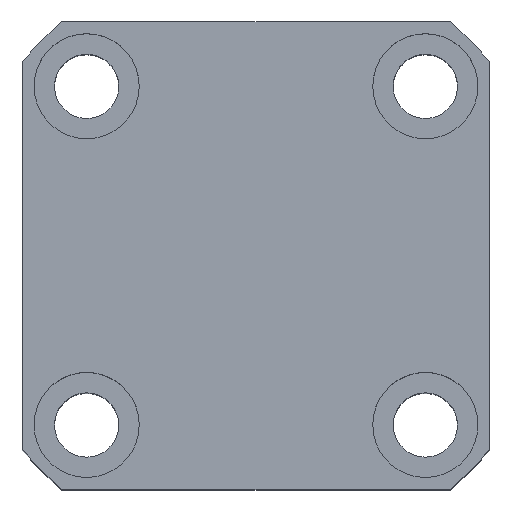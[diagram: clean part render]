
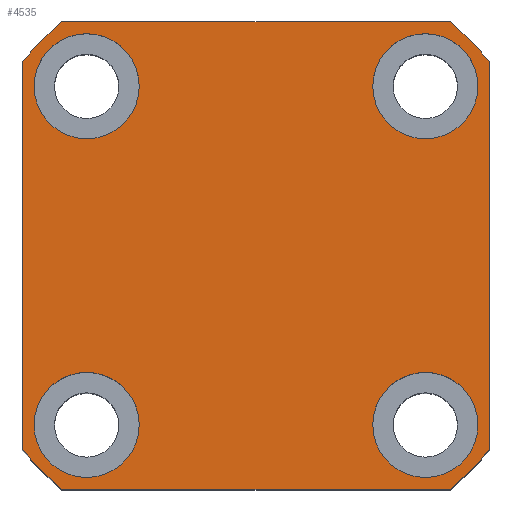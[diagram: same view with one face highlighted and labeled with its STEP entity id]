
A CAD part, top view. The second image highlights one B-rep face of the part: STEP entity #4535.
In plain terms, the highlighted planar face has unit normal (0, 0, 1).
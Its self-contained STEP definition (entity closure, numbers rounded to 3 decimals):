
#2261=PLANE('',#10291);
#2510=LINE('',#17386,#3194);
#2517=LINE('',#18040,#3201);
#2521=LINE('',#18052,#3205);
#2524=LINE('',#18064,#3208);
#3194=VECTOR('',#10734,1.);
#3201=VECTOR('',#10883,1.);
#3205=VECTOR('',#10895,1.);
#3208=VECTOR('',#10912,1.);
#4535=ADVANCED_FACE('',(#4993,#4994,#4995,#4996,#4997),#2261,.T.);
#4993=FACE_BOUND('',#5217,.T.);
#4994=FACE_BOUND('',#5218,.T.);
#4995=FACE_BOUND('',#5219,.T.);
#4996=FACE_BOUND('',#5220,.T.);
#4997=FACE_BOUND('',#5221,.T.);
#5217=EDGE_LOOP('',(#6170));
#5218=EDGE_LOOP('',(#6171));
#5219=EDGE_LOOP('',(#6172));
#5220=EDGE_LOOP('',(#6173));
#5221=EDGE_LOOP('',(#6174,#6175,#6176,#6177,#6178,#6179,#6180,#6181));
#5648=CIRCLE('',#10240,9.);
#5650=CIRCLE('',#10243,9.);
#5652=CIRCLE('',#10246,9.);
#5654=CIRCLE('',#10249,9.);
#5673=CIRCLE('',#10277,52.);
#5675=CIRCLE('',#10281,52.);
#5677=CIRCLE('',#10285,52.);
#5679=CIRCLE('',#10288,52.);
#6170=ORIENTED_EDGE('',*,*,#8977,.F.);
#6171=ORIENTED_EDGE('',*,*,#8979,.F.);
#6172=ORIENTED_EDGE('',*,*,#8981,.F.);
#6173=ORIENTED_EDGE('',*,*,#8983,.F.);
#6174=ORIENTED_EDGE('',*,*,#9003,.T.);
#6175=ORIENTED_EDGE('',*,*,#9007,.T.);
#6176=ORIENTED_EDGE('',*,*,#9010,.T.);
#6177=ORIENTED_EDGE('',*,*,#9013,.T.);
#6178=ORIENTED_EDGE('',*,*,#9015,.T.);
#6179=ORIENTED_EDGE('',*,*,#8915,.T.);
#6180=ORIENTED_EDGE('',*,*,#9018,.T.);
#6181=ORIENTED_EDGE('',*,*,#9020,.T.);
#8086=VERTEX_POINT('',#17385);
#8087=VERTEX_POINT('',#17387);
#8147=VERTEX_POINT('',#17968);
#8149=VERTEX_POINT('',#17973);
#8151=VERTEX_POINT('',#17978);
#8153=VERTEX_POINT('',#17983);
#8173=VERTEX_POINT('',#18031);
#8174=VERTEX_POINT('',#18033);
#8176=VERTEX_POINT('',#18039);
#8178=VERTEX_POINT('',#18045);
#8180=VERTEX_POINT('',#18051);
#8182=VERTEX_POINT('',#18060);
#8915=EDGE_CURVE('',#8087,#8086,#2510,.T.);
#8977=EDGE_CURVE('',#8147,#8147,#5648,.T.);
#8979=EDGE_CURVE('',#8149,#8149,#5650,.T.);
#8981=EDGE_CURVE('',#8151,#8151,#5652,.T.);
#8983=EDGE_CURVE('',#8153,#8153,#5654,.T.);
#9003=EDGE_CURVE('',#8174,#8173,#5673,.T.);
#9007=EDGE_CURVE('',#8173,#8176,#2517,.T.);
#9010=EDGE_CURVE('',#8176,#8178,#5675,.T.);
#9013=EDGE_CURVE('',#8178,#8180,#2521,.T.);
#9015=EDGE_CURVE('',#8180,#8087,#5677,.T.);
#9018=EDGE_CURVE('',#8086,#8182,#5679,.T.);
#9020=EDGE_CURVE('',#8182,#8174,#2524,.T.);
#10240=AXIS2_PLACEMENT_3D('',#17967,#10801,#10802);
#10243=AXIS2_PLACEMENT_3D('',#17972,#10807,#10808);
#10246=AXIS2_PLACEMENT_3D('',#17977,#10813,#10814);
#10249=AXIS2_PLACEMENT_3D('',#17982,#10819,#10820);
#10277=AXIS2_PLACEMENT_3D('',#18032,#10876,#10877);
#10281=AXIS2_PLACEMENT_3D('',#18046,#10889,#10890);
#10285=AXIS2_PLACEMENT_3D('',#18055,#10900,#10901);
#10288=AXIS2_PLACEMENT_3D('',#18061,#10907,#10908);
#10291=AXIS2_PLACEMENT_3D('',#18066,#10915,#10916);
#10734=DIRECTION('',(0.,1.,0.));
#10801=DIRECTION('',(0.,0.,1.));
#10802=DIRECTION('',(1.,0.,0.));
#10807=DIRECTION('',(0.,0.,1.));
#10808=DIRECTION('',(1.,0.,0.));
#10813=DIRECTION('',(0.,0.,1.));
#10814=DIRECTION('',(1.,0.,0.));
#10819=DIRECTION('',(0.,0.,1.));
#10820=DIRECTION('',(1.,0.,0.));
#10876=DIRECTION('',(0.,0.,1.));
#10877=DIRECTION('',(1.,0.,0.));
#10883=DIRECTION('',(0.,-1.,0.));
#10889=DIRECTION('',(0.,0.,1.));
#10890=DIRECTION('',(1.,0.,0.));
#10895=DIRECTION('',(1.,0.,0.));
#10900=DIRECTION('',(0.,0.,1.));
#10901=DIRECTION('',(1.,0.,0.));
#10907=DIRECTION('',(0.,0.,1.));
#10908=DIRECTION('',(1.,0.,0.));
#10912=DIRECTION('',(-1.,0.,0.));
#10915=DIRECTION('',(0.,0.,1.));
#10916=DIRECTION('',(-1.,0.,0.));
#17385=CARTESIAN_POINT('',(40.,33.226,42.5));
#17386=CARTESIAN_POINT('',(40.,33.226,42.5));
#17387=CARTESIAN_POINT('',(40.,-33.226,42.5));
#17967=CARTESIAN_POINT('',(29.,-29.,42.5));
#17968=CARTESIAN_POINT('',(38.,-29.,42.5));
#17972=CARTESIAN_POINT('',(-29.,-29.,42.5));
#17973=CARTESIAN_POINT('',(-20.,-29.,42.5));
#17977=CARTESIAN_POINT('',(-29.,29.,42.5));
#17978=CARTESIAN_POINT('',(-20.,29.,42.5));
#17982=CARTESIAN_POINT('',(29.,29.,42.5));
#17983=CARTESIAN_POINT('',(38.,29.,42.5));
#18031=CARTESIAN_POINT('',(-40.,33.226,42.5));
#18032=CARTESIAN_POINT('',(0.,0.,42.5));
#18033=CARTESIAN_POINT('',(-33.226,40.,42.5));
#18039=CARTESIAN_POINT('',(-40.,-33.226,42.5));
#18040=CARTESIAN_POINT('',(-40.,33.226,42.5));
#18045=CARTESIAN_POINT('',(-33.226,-40.,42.5));
#18046=CARTESIAN_POINT('',(0.,0.,42.5));
#18051=CARTESIAN_POINT('',(33.226,-40.,42.5));
#18052=CARTESIAN_POINT('',(-33.226,-40.,42.5));
#18055=CARTESIAN_POINT('',(0.,0.,42.5));
#18060=CARTESIAN_POINT('',(33.226,40.,42.5));
#18061=CARTESIAN_POINT('',(0.,0.,42.5));
#18064=CARTESIAN_POINT('',(-33.226,40.,42.5));
#18066=CARTESIAN_POINT('',(0.,0.,42.5));
